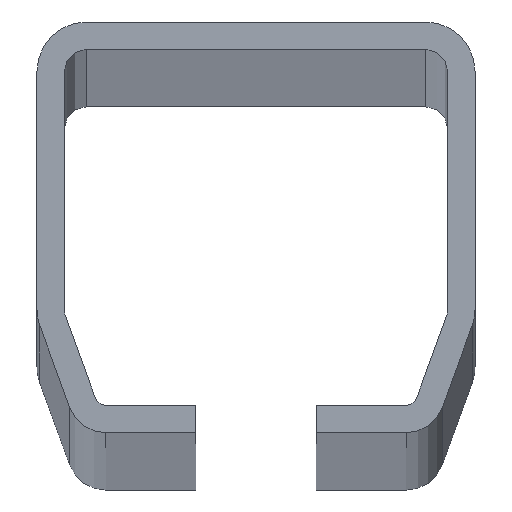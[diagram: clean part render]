
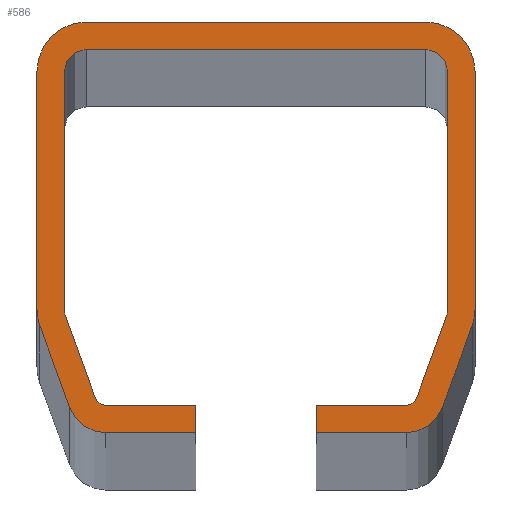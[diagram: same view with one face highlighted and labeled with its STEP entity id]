
A CAD part, top view. The second image highlights one B-rep face of the part: STEP entity #586.
In plain terms, the highlighted planar face has unit normal (0, 0, 1).
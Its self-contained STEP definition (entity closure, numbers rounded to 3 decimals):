
#16=CIRCLE('',#610,4.);
#18=CIRCLE('',#614,4.);
#20=CIRCLE('',#618,2.);
#22=CIRCLE('',#624,7.);
#24=CIRCLE('',#628,9.);
#26=CIRCLE('',#632,9.);
#28=CIRCLE('',#636,9.);
#30=CIRCLE('',#640,9.);
#32=CIRCLE('',#644,7.);
#34=CIRCLE('',#650,2.);
#36=CIRCLE('',#654,4.);
#38=CIRCLE('',#658,4.);
#80=FACE_OUTER_BOUND('',#110,.T.);
#110=EDGE_LOOP('',(#511,#512,#513,#514,#515,#516,#517,#518,#519,#520,#521,
#522,#523,#524,#525,#526,#527,#528,#529,#530,#531,#532,#533,#534,#535,#536,
#537,#538));
#113=LINE('',#839,#173);
#117=LINE('',#851,#177);
#121=LINE('',#863,#181);
#125=LINE('',#875,#185);
#128=LINE('',#881,#188);
#131=LINE('',#887,#191);
#135=LINE('',#899,#195);
#139=LINE('',#911,#199);
#143=LINE('',#923,#203);
#147=LINE('',#935,#207);
#151=LINE('',#947,#211);
#155=LINE('',#959,#215);
#158=LINE('',#965,#218);
#161=LINE('',#971,#221);
#165=LINE('',#983,#225);
#169=LINE('',#995,#229);
#173=VECTOR('',#667,10.);
#177=VECTOR('',#679,10.);
#181=VECTOR('',#691,10.);
#185=VECTOR('',#703,10.);
#188=VECTOR('',#708,10.);
#191=VECTOR('',#713,10.);
#195=VECTOR('',#725,10.);
#199=VECTOR('',#737,10.);
#203=VECTOR('',#749,10.);
#207=VECTOR('',#761,10.);
#211=VECTOR('',#773,10.);
#215=VECTOR('',#785,10.);
#218=VECTOR('',#790,10.);
#221=VECTOR('',#795,10.);
#225=VECTOR('',#807,10.);
#229=VECTOR('',#819,10.);
#233=VERTEX_POINT('',#836);
#234=VERTEX_POINT('',#838);
#236=VERTEX_POINT('',#844);
#238=VERTEX_POINT('',#850);
#240=VERTEX_POINT('',#856);
#242=VERTEX_POINT('',#862);
#244=VERTEX_POINT('',#868);
#246=VERTEX_POINT('',#874);
#248=VERTEX_POINT('',#880);
#250=VERTEX_POINT('',#886);
#252=VERTEX_POINT('',#892);
#254=VERTEX_POINT('',#898);
#256=VERTEX_POINT('',#904);
#258=VERTEX_POINT('',#910);
#260=VERTEX_POINT('',#916);
#262=VERTEX_POINT('',#922);
#264=VERTEX_POINT('',#928);
#266=VERTEX_POINT('',#934);
#268=VERTEX_POINT('',#940);
#270=VERTEX_POINT('',#946);
#272=VERTEX_POINT('',#952);
#274=VERTEX_POINT('',#958);
#276=VERTEX_POINT('',#964);
#278=VERTEX_POINT('',#970);
#280=VERTEX_POINT('',#976);
#282=VERTEX_POINT('',#982);
#284=VERTEX_POINT('',#988);
#286=VERTEX_POINT('',#994);
#289=EDGE_CURVE('',#234,#233,#113,.T.);
#292=EDGE_CURVE('',#236,#234,#16,.T.);
#295=EDGE_CURVE('',#238,#236,#117,.T.);
#298=EDGE_CURVE('',#240,#238,#18,.T.);
#301=EDGE_CURVE('',#242,#240,#121,.T.);
#304=EDGE_CURVE('',#244,#242,#20,.T.);
#307=EDGE_CURVE('',#246,#244,#125,.T.);
#310=EDGE_CURVE('',#248,#246,#128,.T.);
#313=EDGE_CURVE('',#250,#248,#131,.T.);
#316=EDGE_CURVE('',#252,#250,#22,.T.);
#319=EDGE_CURVE('',#254,#252,#135,.T.);
#322=EDGE_CURVE('',#256,#254,#24,.T.);
#325=EDGE_CURVE('',#258,#256,#139,.T.);
#328=EDGE_CURVE('',#260,#258,#26,.T.);
#331=EDGE_CURVE('',#262,#260,#143,.T.);
#334=EDGE_CURVE('',#264,#262,#28,.T.);
#337=EDGE_CURVE('',#266,#264,#147,.T.);
#340=EDGE_CURVE('',#268,#266,#30,.T.);
#343=EDGE_CURVE('',#270,#268,#151,.T.);
#346=EDGE_CURVE('',#272,#270,#32,.T.);
#349=EDGE_CURVE('',#274,#272,#155,.T.);
#352=EDGE_CURVE('',#276,#274,#158,.T.);
#355=EDGE_CURVE('',#278,#276,#161,.T.);
#358=EDGE_CURVE('',#280,#278,#34,.T.);
#361=EDGE_CURVE('',#282,#280,#165,.T.);
#364=EDGE_CURVE('',#284,#282,#36,.T.);
#367=EDGE_CURVE('',#286,#284,#169,.T.);
#370=EDGE_CURVE('',#233,#286,#38,.T.);
#511=ORIENTED_EDGE('',*,*,#370,.T.);
#512=ORIENTED_EDGE('',*,*,#367,.T.);
#513=ORIENTED_EDGE('',*,*,#364,.T.);
#514=ORIENTED_EDGE('',*,*,#361,.T.);
#515=ORIENTED_EDGE('',*,*,#358,.T.);
#516=ORIENTED_EDGE('',*,*,#355,.T.);
#517=ORIENTED_EDGE('',*,*,#352,.T.);
#518=ORIENTED_EDGE('',*,*,#349,.T.);
#519=ORIENTED_EDGE('',*,*,#346,.T.);
#520=ORIENTED_EDGE('',*,*,#343,.T.);
#521=ORIENTED_EDGE('',*,*,#340,.T.);
#522=ORIENTED_EDGE('',*,*,#337,.T.);
#523=ORIENTED_EDGE('',*,*,#334,.T.);
#524=ORIENTED_EDGE('',*,*,#331,.T.);
#525=ORIENTED_EDGE('',*,*,#328,.T.);
#526=ORIENTED_EDGE('',*,*,#325,.T.);
#527=ORIENTED_EDGE('',*,*,#322,.T.);
#528=ORIENTED_EDGE('',*,*,#319,.T.);
#529=ORIENTED_EDGE('',*,*,#316,.T.);
#530=ORIENTED_EDGE('',*,*,#313,.T.);
#531=ORIENTED_EDGE('',*,*,#310,.T.);
#532=ORIENTED_EDGE('',*,*,#307,.T.);
#533=ORIENTED_EDGE('',*,*,#304,.T.);
#534=ORIENTED_EDGE('',*,*,#301,.T.);
#535=ORIENTED_EDGE('',*,*,#298,.T.);
#536=ORIENTED_EDGE('',*,*,#295,.T.);
#537=ORIENTED_EDGE('',*,*,#292,.T.);
#538=ORIENTED_EDGE('',*,*,#289,.T.);
#556=PLANE('',#660);
#586=ADVANCED_FACE('',(#80),#556,.T.);
#610=AXIS2_PLACEMENT_3D('',#845,#673,#674);
#614=AXIS2_PLACEMENT_3D('',#857,#685,#686);
#618=AXIS2_PLACEMENT_3D('',#869,#697,#698);
#624=AXIS2_PLACEMENT_3D('',#893,#719,#720);
#628=AXIS2_PLACEMENT_3D('',#905,#731,#732);
#632=AXIS2_PLACEMENT_3D('',#917,#743,#744);
#636=AXIS2_PLACEMENT_3D('',#929,#755,#756);
#640=AXIS2_PLACEMENT_3D('',#941,#767,#768);
#644=AXIS2_PLACEMENT_3D('',#953,#779,#780);
#650=AXIS2_PLACEMENT_3D('',#977,#801,#802);
#654=AXIS2_PLACEMENT_3D('',#989,#813,#814);
#658=AXIS2_PLACEMENT_3D('',#999,#825,#826);
#660=AXIS2_PLACEMENT_3D('',#1001,#829,#830);
#667=DIRECTION('',(1.,0.,0.));
#673=DIRECTION('center_axis',(0.,0.,-1.));
#674=DIRECTION('ref_axis',(0.,1.,0.));
#679=DIRECTION('',(0.,1.,0.));
#685=DIRECTION('center_axis',(0.,0.,-1.));
#686=DIRECTION('ref_axis',(-1.,0.,0.));
#691=DIRECTION('',(-0.342,0.94,0.));
#697=DIRECTION('center_axis',(0.,0.,-1.));
#698=DIRECTION('ref_axis',(-0.94,-0.342,0.));
#703=DIRECTION('',(-1.,0.,0.));
#708=DIRECTION('',(0.,1.,0.));
#713=DIRECTION('',(1.,0.,0.));
#719=DIRECTION('center_axis',(0.,0.,1.));
#720=DIRECTION('ref_axis',(0.94,0.342,0.));
#725=DIRECTION('',(0.342,-0.94,0.));
#731=DIRECTION('center_axis',(0.,0.,1.));
#732=DIRECTION('ref_axis',(1.,0.,0.));
#737=DIRECTION('',(0.,-1.,0.));
#743=DIRECTION('center_axis',(0.,0.,1.));
#744=DIRECTION('ref_axis',(0.,-1.,0.));
#749=DIRECTION('',(-1.,0.,0.));
#755=DIRECTION('center_axis',(0.,0.,1.));
#756=DIRECTION('ref_axis',(-1.,0.,0.));
#761=DIRECTION('',(0.,1.,0.));
#767=DIRECTION('center_axis',(0.,0.,1.));
#768=DIRECTION('ref_axis',(-0.94,0.342,0.));
#773=DIRECTION('',(0.342,0.94,0.));
#779=DIRECTION('center_axis',(0.,0.,1.));
#780=DIRECTION('ref_axis',(0.,1.,0.));
#785=DIRECTION('',(1.,0.,0.));
#790=DIRECTION('',(0.,-1.,0.));
#795=DIRECTION('',(-1.,0.,0.));
#801=DIRECTION('center_axis',(0.,0.,-1.));
#802=DIRECTION('ref_axis',(0.,-1.,0.));
#807=DIRECTION('',(-0.342,-0.94,0.));
#813=DIRECTION('center_axis',(0.,0.,-1.));
#814=DIRECTION('ref_axis',(0.94,-0.342,0.));
#819=DIRECTION('',(0.,-1.,0.));
#825=DIRECTION('center_axis',(0.,0.,-1.));
#826=DIRECTION('ref_axis',(1.,0.,0.));
#829=DIRECTION('center_axis',(0.,0.,1.));
#830=DIRECTION('ref_axis',(1.,0.,0.));
#836=CARTESIAN_POINT('',(30.926,-5.27,6000.));
#838=CARTESIAN_POINT('',(-31.074,-5.27,6000.));
#839=CARTESIAN_POINT('',(30.926,-5.27,6000.));
#844=CARTESIAN_POINT('',(-35.074,-9.27,6000.));
#845=CARTESIAN_POINT('Origin',(-31.074,-9.27,6000.));
#850=CARTESIAN_POINT('',(-35.074,-52.684,6000.));
#851=CARTESIAN_POINT('',(-35.074,-9.27,6000.));
#856=CARTESIAN_POINT('',(-34.833,-54.052,6000.));
#857=CARTESIAN_POINT('Origin',(-31.074,-52.684,6000.));
#862=CARTESIAN_POINT('',(-29.409,-68.955,6000.));
#863=CARTESIAN_POINT('',(-34.833,-54.052,6000.));
#868=CARTESIAN_POINT('',(-27.529,-70.27,6000.));
#869=CARTESIAN_POINT('Origin',(-27.529,-68.27,6000.));
#874=CARTESIAN_POINT('',(-11.074,-70.27,6000.));
#875=CARTESIAN_POINT('',(-27.529,-70.27,6000.));
#880=CARTESIAN_POINT('',(-11.074,-75.27,6000.));
#881=CARTESIAN_POINT('',(-11.074,-70.27,6000.));
#886=CARTESIAN_POINT('',(-27.529,-75.27,6000.));
#887=CARTESIAN_POINT('',(-11.074,-75.27,6000.));
#892=CARTESIAN_POINT('',(-34.107,-70.665,6000.));
#893=CARTESIAN_POINT('Origin',(-27.529,-68.27,6000.));
#898=CARTESIAN_POINT('',(-39.531,-55.762,6000.));
#899=CARTESIAN_POINT('',(-34.107,-70.665,6000.));
#904=CARTESIAN_POINT('',(-40.074,-52.684,6000.));
#905=CARTESIAN_POINT('Origin',(-31.074,-52.684,6000.));
#910=CARTESIAN_POINT('',(-40.074,-9.27,6000.));
#911=CARTESIAN_POINT('',(-40.074,-52.684,6000.));
#916=CARTESIAN_POINT('',(-31.074,-0.27,6000.));
#917=CARTESIAN_POINT('Origin',(-31.074,-9.27,6000.));
#922=CARTESIAN_POINT('',(30.926,-0.27,6000.));
#923=CARTESIAN_POINT('',(-31.074,-0.27,6000.));
#928=CARTESIAN_POINT('',(39.926,-9.27,6000.));
#929=CARTESIAN_POINT('Origin',(30.926,-9.27,6000.));
#934=CARTESIAN_POINT('',(39.926,-52.684,6000.));
#935=CARTESIAN_POINT('',(39.926,-9.27,6000.));
#940=CARTESIAN_POINT('',(39.383,-55.762,6000.));
#941=CARTESIAN_POINT('Origin',(30.926,-52.684,6000.));
#946=CARTESIAN_POINT('',(33.959,-70.665,6000.));
#947=CARTESIAN_POINT('',(39.383,-55.762,6000.));
#952=CARTESIAN_POINT('',(27.381,-75.27,6000.));
#953=CARTESIAN_POINT('Origin',(27.381,-68.27,6000.));
#958=CARTESIAN_POINT('',(10.926,-75.27,6000.));
#959=CARTESIAN_POINT('',(27.381,-75.27,6000.));
#964=CARTESIAN_POINT('',(10.926,-70.27,6000.));
#965=CARTESIAN_POINT('',(10.926,-75.27,6000.));
#970=CARTESIAN_POINT('',(27.381,-70.27,6000.));
#971=CARTESIAN_POINT('',(10.926,-70.27,6000.));
#976=CARTESIAN_POINT('',(29.26,-68.955,6000.));
#977=CARTESIAN_POINT('Origin',(27.381,-68.27,6000.));
#982=CARTESIAN_POINT('',(34.685,-54.052,6000.));
#983=CARTESIAN_POINT('',(29.26,-68.955,6000.));
#988=CARTESIAN_POINT('',(34.926,-52.684,6000.));
#989=CARTESIAN_POINT('Origin',(30.926,-52.684,6000.));
#994=CARTESIAN_POINT('',(34.926,-9.27,6000.));
#995=CARTESIAN_POINT('',(34.926,-52.684,6000.));
#999=CARTESIAN_POINT('Origin',(30.926,-9.27,6000.));
#1001=CARTESIAN_POINT('Origin',(-0.074,-34.436,6000.));
